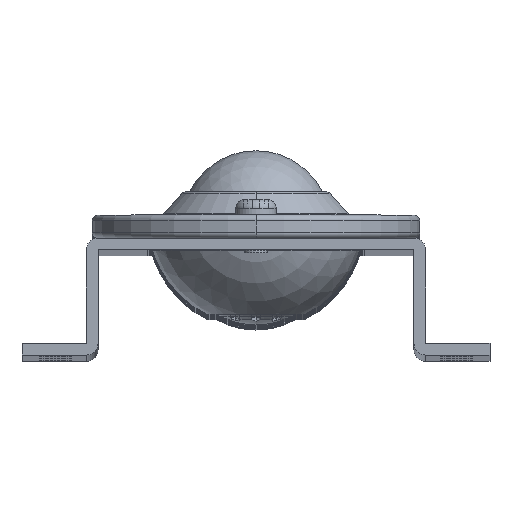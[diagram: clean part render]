
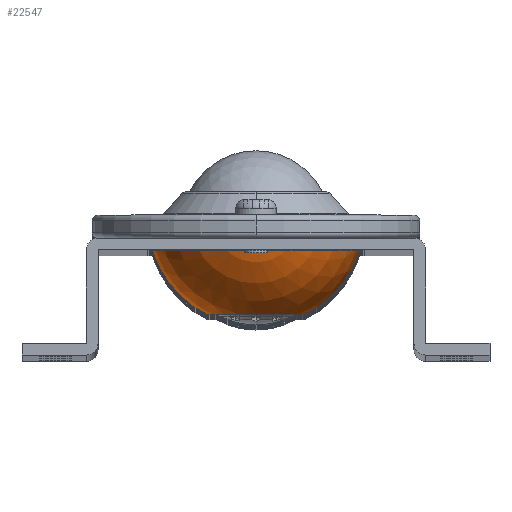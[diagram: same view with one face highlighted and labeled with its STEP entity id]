
A CAD part, top view. The second image highlights one B-rep face of the part: STEP entity #22547.
In plain terms, the highlighted spherical face has radius 18.602 mm.
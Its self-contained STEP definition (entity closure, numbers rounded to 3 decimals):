
#1048 = AXIS2_PLACEMENT_3D ( 'NONE', #5762, #18310, #7568 ) ;
#1348 = CARTESIAN_POINT ( 'NONE',  ( 8.358, 6.983, -50. ) ) ;
#2502 = CIRCLE ( 'NONE', #9736, 18.25 ) ;
#3004 = DIRECTION ( 'NONE',  ( 0., 0., 1. ) ) ;
#3045 = ORIENTED_EDGE ( 'NONE', *, *, #19113, .T. ) ;
#3373 = VERTEX_POINT ( 'NONE', #6955 ) ;
#4223 = CARTESIAN_POINT ( 'NONE',  ( 0., 23.602, -50. ) ) ;
#4859 = ORIENTED_EDGE ( 'NONE', *, *, #9745, .T. ) ;
#5762 = CARTESIAN_POINT ( 'NONE',  ( 0., 23.602, -50. ) ) ;
#6168 = CARTESIAN_POINT ( 'NONE',  ( 0., 6.983, -50. ) ) ;
#6955 = CARTESIAN_POINT ( 'NONE',  ( -18.25, 20., -50. ) ) ;
#7311 = CARTESIAN_POINT ( 'NONE',  ( -8.358, 6.983, -50. ) ) ;
#7518 = DIRECTION ( 'NONE',  ( 0., 1., 0. ) ) ;
#7568 = DIRECTION ( 'NONE',  ( -1., 0., 0. ) ) ;
#7969 = DIRECTION ( 'NONE',  ( 0., 0., 1. ) ) ;
#9736 = AXIS2_PLACEMENT_3D ( 'NONE', #18255, #7518, #20079 ) ;
#9745 = EDGE_CURVE ( 'NONE', #14994, #19575, #23232, .T. ) ;
#11707 = EDGE_LOOP ( 'NONE', ( #4859, #3045, #15855, #20689 ) ) ;
#12299 = SPHERICAL_SURFACE ( 'NONE', #12999, 18.602 ) ;
#12441 = CARTESIAN_POINT ( 'NONE',  ( 18.25, 20., -50. ) ) ;
#12999 = AXIS2_PLACEMENT_3D ( 'NONE', #4223, #14882, #20400 ) ;
#13725 = CARTESIAN_POINT ( 'NONE',  ( 0., 23.602, -50. ) ) ;
#14629 = EDGE_CURVE ( 'NONE', #14994, #3373, #17418, .T. ) ;
#14882 = DIRECTION ( 'NONE',  ( 0., 0., 1. ) ) ;
#14994 = VERTEX_POINT ( 'NONE', #7311 ) ;
#15546 = DIRECTION ( 'NONE',  ( 1., 0., 0. ) ) ;
#15855 = ORIENTED_EDGE ( 'NONE', *, *, #16866, .F. ) ;
#16549 = AXIS2_PLACEMENT_3D ( 'NONE', #13725, #3004, #15546 ) ;
#16720 = AXIS2_PLACEMENT_3D ( 'NONE', #6168, #18718, #7969 ) ;
#16866 = EDGE_CURVE ( 'NONE', #3373, #21153, #2502, .T. ) ;
#17101 = FACE_OUTER_BOUND ( 'NONE', #11707, .T. ) ;
#17418 = CIRCLE ( 'NONE', #1048, 18.602 ) ;
#18255 = CARTESIAN_POINT ( 'NONE',  ( 0., 20., -50. ) ) ;
#18310 = DIRECTION ( 'NONE',  ( 0., 0., -1. ) ) ;
#18718 = DIRECTION ( 'NONE',  ( 0., 1., 0. ) ) ;
#19113 = EDGE_CURVE ( 'NONE', #19575, #21153, #23104, .T. ) ;
#19575 = VERTEX_POINT ( 'NONE', #1348 ) ;
#20079 = DIRECTION ( 'NONE',  ( 0., 0., 1. ) ) ;
#20400 = DIRECTION ( 'NONE',  ( -1., 0., 0. ) ) ;
#20689 = ORIENTED_EDGE ( 'NONE', *, *, #14629, .F. ) ;
#21153 = VERTEX_POINT ( 'NONE', #12441 ) ;
#22547 = ADVANCED_FACE ( 'NONE', ( #17101 ), #12299, .T. ) ;
#23104 = CIRCLE ( 'NONE', #16549, 18.602 ) ;
#23232 = CIRCLE ( 'NONE', #16720, 8.358 ) ;
